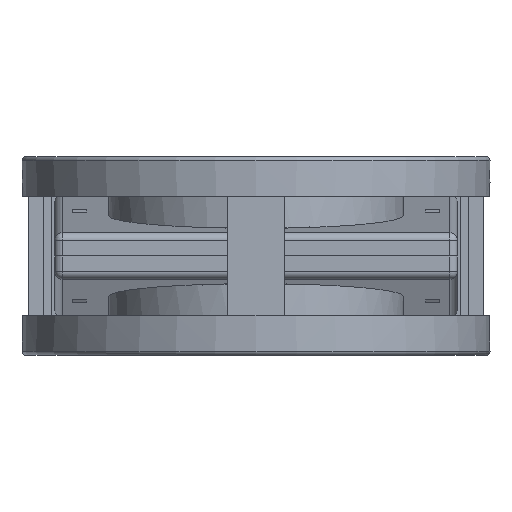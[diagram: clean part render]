
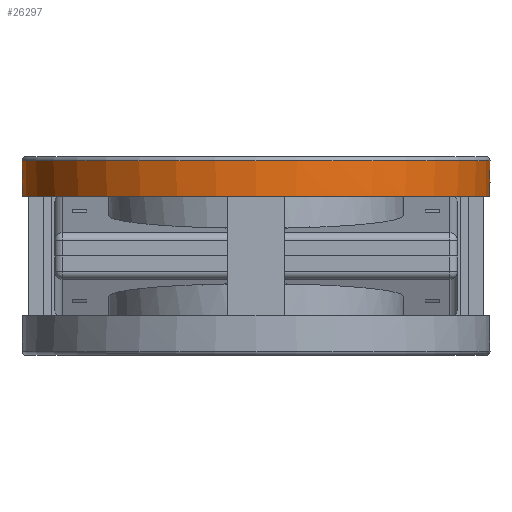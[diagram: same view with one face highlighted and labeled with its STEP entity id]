
A CAD part, front view. The second image highlights one B-rep face of the part: STEP entity #26297.
In plain terms, the highlighted cylindrical face has radius 82.4 mm (diameter 164.8 mm), a full revolution.
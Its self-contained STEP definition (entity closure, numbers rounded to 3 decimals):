
#4782=CIRCLE('',#77781,82.4);
#4783=CIRCLE('',#77782,82.4);
#4784=CIRCLE('',#77783,82.4);
#4785=CIRCLE('',#77785,82.4);
#26297=ADVANCED_FACE('',(#31679,#31680,#31681,#31682),#30203,.T.);
#30203=CYLINDRICAL_SURFACE('',#77788,82.4);
#31679=FACE_BOUND('',#33134,.T.);
#31680=FACE_BOUND('',#33135,.T.);
#31681=FACE_BOUND('',#33136,.T.);
#31682=FACE_BOUND('',#33137,.T.);
#33134=EDGE_LOOP('',(#40452,#40453,#40454));
#33135=EDGE_LOOP('',(#40455));
#33136=EDGE_LOOP('',(#40456,#40457));
#33137=EDGE_LOOP('',(#40458,#40459,#40460));
#40452=ORIENTED_EDGE('',*,*,#67399,.T.);
#40453=ORIENTED_EDGE('',*,*,#67400,.T.);
#40454=ORIENTED_EDGE('',*,*,#67401,.T.);
#40455=ORIENTED_EDGE('',*,*,#67402,.T.);
#40456=ORIENTED_EDGE('',*,*,#67403,.F.);
#40457=ORIENTED_EDGE('',*,*,#67404,.T.);
#40458=ORIENTED_EDGE('',*,*,#67405,.T.);
#40459=ORIENTED_EDGE('',*,*,#67406,.T.);
#40460=ORIENTED_EDGE('',*,*,#67407,.T.);
#60034=VERTEX_POINT('',#108648);
#60035=VERTEX_POINT('',#108649);
#60036=VERTEX_POINT('',#108651);
#60037=VERTEX_POINT('',#108654);
#60038=VERTEX_POINT('',#108656);
#60039=VERTEX_POINT('',#108657);
#60040=VERTEX_POINT('',#108660);
#60041=VERTEX_POINT('',#108661);
#60042=VERTEX_POINT('',#108663);
#67399=EDGE_CURVE('',#60034,#60035,#76696,.T.);
#67400=EDGE_CURVE('',#60035,#60036,#76697,.T.);
#67401=EDGE_CURVE('',#60036,#60034,#4782,.T.);
#67402=EDGE_CURVE('',#60037,#60037,#4783,.T.);
#67403=EDGE_CURVE('',#60038,#60039,#4784,.T.);
#67404=EDGE_CURVE('',#60038,#60039,#76698,.T.);
#67405=EDGE_CURVE('',#60040,#60041,#4785,.T.);
#67406=EDGE_CURVE('',#60041,#60042,#76699,.T.);
#67407=EDGE_CURVE('',#60042,#60040,#76700,.T.);
#76696=ELLIPSE('',#77779,164.8,82.4);
#76697=ELLIPSE('',#77780,164.8,82.4);
#76698=ELLIPSE('',#77784,82.715,82.4);
#76699=ELLIPSE('',#77786,164.8,82.4);
#76700=ELLIPSE('',#77787,164.8,82.4);
#77779=AXIS2_PLACEMENT_3D('',#108647,#87139,#87140);
#77780=AXIS2_PLACEMENT_3D('',#108650,#87141,#87142);
#77781=AXIS2_PLACEMENT_3D('',#108652,#87143,#87144);
#77782=AXIS2_PLACEMENT_3D('',#108653,#87145,#87146);
#77783=AXIS2_PLACEMENT_3D('',#108655,#87147,#87148);
#77784=AXIS2_PLACEMENT_3D('',#108658,#87149,#87150);
#77785=AXIS2_PLACEMENT_3D('',#108659,#87151,#87152);
#77786=AXIS2_PLACEMENT_3D('',#108662,#87153,#87154);
#77787=AXIS2_PLACEMENT_3D('',#108664,#87155,#87156);
#77788=AXIS2_PLACEMENT_3D('',#108665,#87157,#87158);
#87139=DIRECTION('',(0.5,0.866,0.));
#87140=DIRECTION('',(0.866,-0.5,0.));
#87141=DIRECTION('',(0.5,-0.866,0.));
#87142=DIRECTION('',(0.866,0.5,0.));
#87143=DIRECTION('',(-1.,0.,0.));
#87144=DIRECTION('',(0.,0.,-1.));
#87145=DIRECTION('',(1.,0.,0.));
#87146=DIRECTION('',(0.,1.,0.));
#87147=DIRECTION('',(1.,0.,0.));
#87148=DIRECTION('',(0.,1.,0.));
#87149=DIRECTION('',(-0.996,-0.087,0.));
#87150=DIRECTION('',(0.087,-0.996,0.));
#87151=DIRECTION('',(-1.,0.,0.));
#87152=DIRECTION('',(0.,0.,-1.));
#87153=DIRECTION('',(0.5,-0.866,0.));
#87154=DIRECTION('',(0.866,0.5,0.));
#87155=DIRECTION('',(0.5,0.866,0.));
#87156=DIRECTION('',(0.866,-0.5,0.));
#87157=DIRECTION('',(1.,0.,0.));
#87158=DIRECTION('',(0.,1.,0.));
#108647=CARTESIAN_POINT('',(-26.,0.,0.));
#108648=CARTESIAN_POINT('',(-30.,2.309,82.368));
#108649=CARTESIAN_POINT('',(-26.,0.,82.4));
#108650=CARTESIAN_POINT('',(-26.,0.,0.));
#108651=CARTESIAN_POINT('',(-30.,-2.309,82.368));
#108652=CARTESIAN_POINT('',(-30.,0.,0.));
#108653=CARTESIAN_POINT('',(-33.5,0.,0.));
#108654=CARTESIAN_POINT('',(-33.5,82.4,0.));
#108655=CARTESIAN_POINT('',(-21.,0.,0.));
#108656=CARTESIAN_POINT('',(-21.,76.47,30.692));
#108657=CARTESIAN_POINT('',(-21.,76.47,-30.692));
#108658=CARTESIAN_POINT('',(-14.31,0.,0.));
#108659=CARTESIAN_POINT('',(-30.,0.,0.));
#108660=CARTESIAN_POINT('',(-30.,2.309,-82.368));
#108661=CARTESIAN_POINT('',(-30.,-2.309,-82.368));
#108662=CARTESIAN_POINT('',(-26.,0.,0.));
#108663=CARTESIAN_POINT('',(-26.,0.,-82.4));
#108664=CARTESIAN_POINT('',(-26.,0.,0.));
#108665=CARTESIAN_POINT('',(-13.6,0.,0.));
